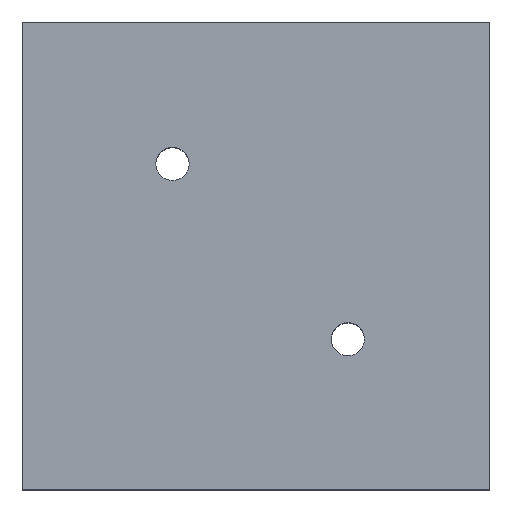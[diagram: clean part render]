
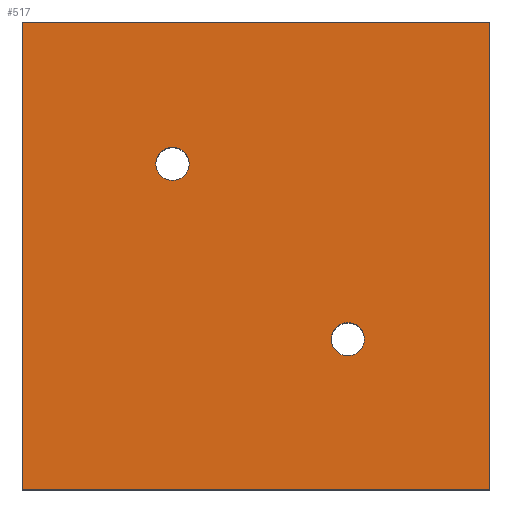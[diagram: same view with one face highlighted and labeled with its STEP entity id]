
A CAD part, top view. The second image highlights one B-rep face of the part: STEP entity #517.
In plain terms, the highlighted planar face has unit normal (0, 0, 1).
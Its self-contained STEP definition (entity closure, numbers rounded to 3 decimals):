
#29 = CARTESIAN_POINT ( 'NONE',  ( 0., 28., 10. ) ) ;
#37 = FACE_OUTER_BOUND ( 'NONE', #271, .T. ) ;
#45 = EDGE_LOOP ( 'NONE', ( #784, #1111 ) ) ;
#48 = AXIS2_PLACEMENT_3D ( 'NONE', #965, #873, #543 ) ;
#63 = FACE_BOUND ( 'NONE', #615, .T. ) ;
#71 = VECTOR ( 'NONE', #439, 1000. ) ;
#76 = CARTESIAN_POINT ( 'NONE',  ( 28., 0., 10. ) ) ;
#86 = CARTESIAN_POINT ( 'NONE',  ( 0., 0., 10. ) ) ;
#128 = CARTESIAN_POINT ( 'NONE',  ( 18.5, 9., 10. ) ) ;
#137 = LINE ( 'NONE', #452, #71 ) ;
#208 = CARTESIAN_POINT ( 'NONE',  ( 10., 19.5, 10. ) ) ;
#229 = LINE ( 'NONE', #29, #1353 ) ;
#235 = VERTEX_POINT ( 'NONE', #1238 ) ;
#248 = ORIENTED_EDGE ( 'NONE', *, *, #1258, .F. ) ;
#251 = VERTEX_POINT ( 'NONE', #934 ) ;
#256 = DIRECTION ( 'NONE',  ( -1., 0., 0. ) ) ;
#271 = EDGE_LOOP ( 'NONE', ( #1335, #1019, #819, #1220 ) ) ;
#275 = DIRECTION ( 'NONE',  ( 1., 0., 0. ) ) ;
#308 = DIRECTION ( 'NONE',  ( 0., 0., 1. ) ) ;
#354 = DIRECTION ( 'NONE',  ( 0., 0., -1. ) ) ;
#365 = LINE ( 'NONE', #86, #366 ) ;
#366 = VECTOR ( 'NONE', #1006, 1000. ) ;
#386 = VERTEX_POINT ( 'NONE', #957 ) ;
#407 = CARTESIAN_POINT ( 'NONE',  ( 9., 19.5, 10. ) ) ;
#416 = AXIS2_PLACEMENT_3D ( 'NONE', #1287, #469, #991 ) ;
#419 = ORIENTED_EDGE ( 'NONE', *, *, #863, .F. ) ;
#439 = DIRECTION ( 'NONE',  ( 0., 1., 0. ) ) ;
#452 = CARTESIAN_POINT ( 'NONE',  ( 28., 0., 10. ) ) ;
#469 = DIRECTION ( 'NONE',  ( 0., 0., 1. ) ) ;
#484 = CARTESIAN_POINT ( 'NONE',  ( 0., 0., 10. ) ) ;
#498 = CARTESIAN_POINT ( 'NONE',  ( 20.5, 9., 10. ) ) ;
#516 = CIRCLE ( 'NONE', #1155, 1. ) ;
#517 = ADVANCED_FACE ( 'NONE', ( #37, #650, #63 ), #1296, .F. ) ;
#543 = DIRECTION ( 'NONE',  ( 1., 0., 0. ) ) ;
#566 = VERTEX_POINT ( 'NONE', #76 ) ;
#590 = VERTEX_POINT ( 'NONE', #498 ) ;
#606 = EDGE_CURVE ( 'NONE', #386, #566, #716, .T. ) ;
#615 = EDGE_LOOP ( 'NONE', ( #248, #419 ) ) ;
#650 = FACE_BOUND ( 'NONE', #45, .T. ) ;
#660 = EDGE_CURVE ( 'NONE', #235, #1201, #516, .T. ) ;
#680 = VERTEX_POINT ( 'NONE', #128 ) ;
#686 = CIRCLE ( 'NONE', #930, 1. ) ;
#689 = DIRECTION ( 'NONE',  ( 1., 0., 0. ) ) ;
#707 = EDGE_CURVE ( 'NONE', #1201, #235, #686, .T. ) ;
#716 = LINE ( 'NONE', #484, #859 ) ;
#731 = DIRECTION ( 'NONE',  ( 1., 0., 0. ) ) ;
#759 = EDGE_CURVE ( 'NONE', #1182, #251, #229, .T. ) ;
#768 = CIRCLE ( 'NONE', #48, 1. ) ;
#784 = ORIENTED_EDGE ( 'NONE', *, *, #660, .F. ) ;
#819 = ORIENTED_EDGE ( 'NONE', *, *, #1230, .T. ) ;
#859 = VECTOR ( 'NONE', #275, 1000. ) ;
#863 = EDGE_CURVE ( 'NONE', #590, #680, #1253, .T. ) ;
#873 = DIRECTION ( 'NONE',  ( 0., 0., 1. ) ) ;
#883 = AXIS2_PLACEMENT_3D ( 'NONE', #1202, #354, #256 ) ;
#930 = AXIS2_PLACEMENT_3D ( 'NONE', #1175, #308, #731 ) ;
#934 = CARTESIAN_POINT ( 'NONE',  ( 0., 28., 10. ) ) ;
#957 = CARTESIAN_POINT ( 'NONE',  ( 0., 0., 10. ) ) ;
#965 = CARTESIAN_POINT ( 'NONE',  ( 19.5, 9., 10. ) ) ;
#991 = DIRECTION ( 'NONE',  ( 1., 0., 0. ) ) ;
#1006 = DIRECTION ( 'NONE',  ( 0., -1., 0. ) ) ;
#1019 = ORIENTED_EDGE ( 'NONE', *, *, #606, .T. ) ;
#1027 = EDGE_CURVE ( 'NONE', #251, #386, #365, .T. ) ;
#1052 = CARTESIAN_POINT ( 'NONE',  ( 28., 28., 10. ) ) ;
#1111 = ORIENTED_EDGE ( 'NONE', *, *, #707, .F. ) ;
#1155 = AXIS2_PLACEMENT_3D ( 'NONE', #407, #1215, #689 ) ;
#1163 = DIRECTION ( 'NONE',  ( -1., 0., 0. ) ) ;
#1175 = CARTESIAN_POINT ( 'NONE',  ( 9., 19.5, 10. ) ) ;
#1182 = VERTEX_POINT ( 'NONE', #1052 ) ;
#1201 = VERTEX_POINT ( 'NONE', #208 ) ;
#1202 = CARTESIAN_POINT ( 'NONE',  ( 0., 0., 10. ) ) ;
#1215 = DIRECTION ( 'NONE',  ( 0., 0., 1. ) ) ;
#1220 = ORIENTED_EDGE ( 'NONE', *, *, #759, .T. ) ;
#1230 = EDGE_CURVE ( 'NONE', #566, #1182, #137, .T. ) ;
#1238 = CARTESIAN_POINT ( 'NONE',  ( 8., 19.5, 10. ) ) ;
#1253 = CIRCLE ( 'NONE', #416, 1. ) ;
#1258 = EDGE_CURVE ( 'NONE', #680, #590, #768, .T. ) ;
#1287 = CARTESIAN_POINT ( 'NONE',  ( 19.5, 9., 10. ) ) ;
#1296 = PLANE ( 'NONE',  #883 ) ;
#1335 = ORIENTED_EDGE ( 'NONE', *, *, #1027, .T. ) ;
#1353 = VECTOR ( 'NONE', #1163, 1000. ) ;
